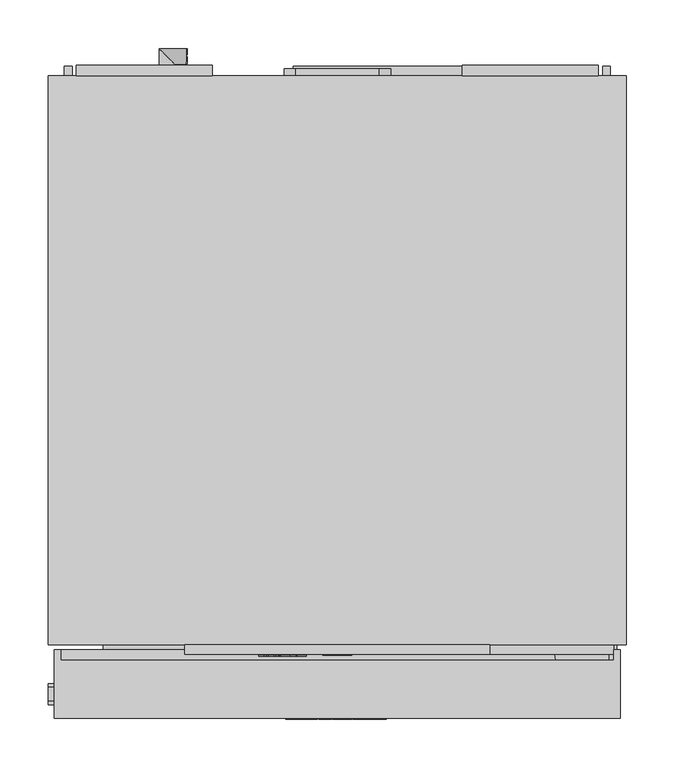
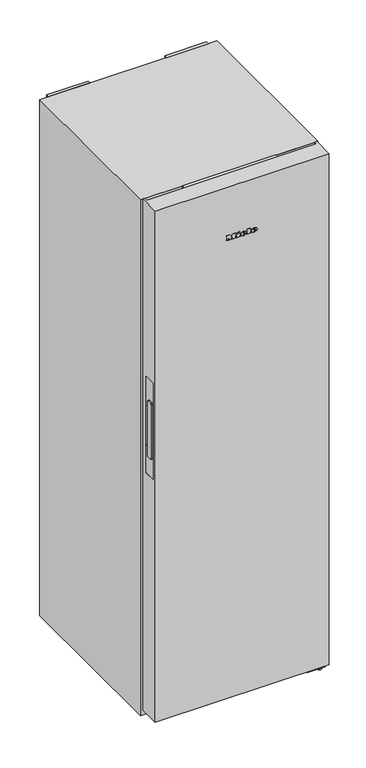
"""IFC4 building model written with IfcOpenShell, lengths in millimetres: proxy geometry, 11953910_EU1_FN4874C_WS : 37487434_EU1_11953910_FN4874C_WS."""

from ifc_helpers import new_model, si_unit, point, frame, frame_2d, origin, origin_with_axes, place, context, project, spatial, polyline, circle_curve, ellipse_curve, trimmed, segment, composite_curve, outline, extrude, faceted_brep, source, transform, mapped, element, save
from ifc_brep_helpers import plane_surface, cylinder_surface, revolved_surface, extruded_surface, advanced_brep


def specialty_equipment_1393cf11(model_context):
    return source(origin(), model_context, "Body", "SolidModel", [
        extrude(outline(polyline([(15.0, -609.5), (-15.0, -609.5), (-15.0, -606.5), (15.0, -606.5), (15.0, -609.5)])), frame((0.0, 0.0, 1812.0), z_axis=(0.0, 0.0, 1.0), x_axis=(1.0, 0.0, 0.0)), (0.0, 0.0, 1.0), 28.0),
        extrude(outline(polyline([(1845.5, 105.0), (1845.5, -105.0), (1806.5, -105.0), (1806.5, 105.0), (1845.5, 105.0)]), holes=[polyline([(1840.0, -15.0), (1840.0, 15.0), (1812.0, 15.0), (1812.0, -15.0), (1840.0, -15.0)])]), frame((0.0, -608.5, 0.0), z_axis=(0.0, 1.0, 0.0), x_axis=(0.0, 0.0, 1.0)), (0.0, 0.0, 1.0), 2.0),
        faceted_brep([(157.5, -598.5, 1802.0), (157.5, -608.5, 1802.0), (-157.5, -608.5, 1802.0), (-157.5, -598.5, 1802.0), (157.5, -598.5, 1850.0), (-157.5, -598.5, 1850.0), (-157.5, -608.5, 1850.0), (157.5, -608.5, 1850.0), (-105.0, -608.5, 1845.5), (105.0, -608.5, 1845.5), (105.0, -608.5, 1806.5), (-105.0, -608.5, 1806.5), (105.0, -606.5, 1845.5), (-105.0, -606.5, 1845.5), (-105.0, -606.5, 1806.5), (105.0, -606.5, 1806.5)], [[[0, 1, 2, 3]], [[4, 5, 6, 7]], [[0, 3, 5, 4]], [[3, 2, 6, 5]], [[2, 1, 7, 6], [8, 9, 10, 11]], [[1, 0, 4, 7]], [[12, 13, 14, 15]], [[13, 12, 9, 8]], [[14, 13, 8, 11]], [[15, 14, 11, 10]], [[12, 15, 10, 9]]]),
        advanced_brep(
        [(39.0804776, -675.5, 1668.7956125), (39.0804776, -675.5, 1670.5126125), (50.4534776, -675.5, 1670.5126125), (30.6654776, -675.5, 1670.5126125), (35.3404776, -675.5, 1664.7666125), (50.1644776, -675.5, 1668.7956125), (45.0304776, -675.5, 1668.7956125), (40.9844776, -675.5, 1666.8916125), (39.0804776, -675.5, 1672.6886125), (39.0804776, -675.5, 1674.5416125), (41.9874776, -675.5, 1674.5416125), (41.9874776, -675.5, 1672.6886125), (39.0804776, -674.5, 1668.7956125), (40.9844776, -674.5, 1666.8916125), (45.0304776, -674.5, 1668.7956125), (50.1644776, -674.5, 1668.7956125), (35.3404776, -674.5, 1664.7666125), (30.6654776, -674.5, 1670.5126125), (50.4534776, -674.5, 1670.5126125), (39.0804776, -674.5, 1670.5126125), (39.0804776, -674.5, 1672.6886125), (41.9874776, -674.5, 1672.6886125), (41.9874776, -674.5, 1674.5416125), (39.0804776, -674.5, 1674.5416125)],
        [
            (0, 1),
            (1, 2),
            (2, 3, ellipse_curve(frame((40.5594776, -675.5, 1670.5126125), z_axis=(0.0, -1.0, 0.0), x_axis=(-1.0, 0.0, 0.0)), 9.894, 8.177)),
            (3, 4, circle_curve(frame((37.2445704, -675.5, 1671.0906125), z_axis=(0.0, -1.0, 0.0), x_axis=(0.0, 0.0, -1.0)), 6.6044337)),
            (4, 5, circle_curve(frame((40.361414, -675.5, 1675.5786125), z_axis=(0.0, -1.0, 0.0), x_axis=(0.0, 0.0, -1.0)), 11.9209541)),
            (5, 6),
            (6, 7, circle_curve(frame((41.8154776, -675.5, 1670.3766125), z_axis=(0.0, 1.0, 0.0), x_axis=(0.0, 0.0, -1.0)), 3.5827065)),
            (7, 0, circle_curve(frame((40.9844776, -675.5, 1668.7956125), z_axis=(0.0, 1.0, 0.0), x_axis=(0.0, 0.0, -1.0)), 1.904)),
            (8, 9),
            (9, 10, circle_curve(frame((40.5339776, -675.5, 1674.5416125), z_axis=(0.0, 1.0, 0.0), x_axis=(0.0, 0.0, -1.0)), 1.4535)),
            (10, 11),
            (11, 8),
            (12, 13, circle_curve(frame((40.9844776, -674.5, 1668.7956125), z_axis=(0.0, -1.0, 0.0), x_axis=(0.0, 0.0, -1.0)), 1.904)),
            (13, 14, circle_curve(frame((41.8154776, -674.5, 1670.3766125), z_axis=(0.0, -1.0, 0.0), x_axis=(0.0, 0.0, -1.0)), 3.5827065)),
            (14, 15),
            (15, 16, circle_curve(frame((40.361414, -674.5, 1675.5786125), z_axis=(0.0, 1.0, 0.0), x_axis=(0.0, 0.0, -1.0)), 11.9209541)),
            (16, 17, circle_curve(frame((37.2445704, -674.5, 1671.0906125), z_axis=(0.0, 1.0, 0.0), x_axis=(0.0, 0.0, -1.0)), 6.6044337)),
            (17, 18, ellipse_curve(frame((40.5594776, -674.5, 1670.5126125), z_axis=(0.0, 1.0, 0.0), x_axis=(-1.0, 0.0, 0.0)), 9.894, 8.177)),
            (18, 19),
            (19, 12),
            (20, 21),
            (21, 22),
            (22, 23, circle_curve(frame((40.5339776, -674.5, 1674.5416125), z_axis=(0.0, -1.0, 0.0), x_axis=(0.0, 0.0, -1.0)), 1.4535)),
            (23, 20),
            (0, 12),
            (19, 1),
            (18, 2),
            (5, 15),
            (14, 6),
            (17, 3),
            (13, 7),
            (16, 4),
            (8, 20),
            (23, 9),
            (22, 10),
            (21, 11),
        ],
        [
            plane_surface(frame((39.0804776, -675.5, 1670.5126125), z_axis=(0.0, -1.0, 0.0), x_axis=(0.0, 0.0, 1.0))),
            plane_surface(frame((39.0804776, -674.5, 1670.5126125), z_axis=(0.0, 1.0, 0.0), x_axis=(0.0, 0.0, -1.0))),
            plane_surface(frame((39.0804776, -675.5, 1668.7956125), z_axis=(1.0, 0.0, 0.0), x_axis=(0.0, 1.0, 0.0))),
            plane_surface(frame((39.0804776, -675.5, 1670.5126125), z_axis=(0.0, 0.0, -1.0), x_axis=(0.0, 1.0, 0.0))),
            plane_surface(frame((50.1644776, -675.5, 1668.7956125), z_axis=(0.0, 0.0, 1.0), x_axis=(0.0, 1.0, 0.0))),
            extruded_surface(trimmed(ellipse_curve(frame((40.5594776, -673.5, 1670.5126125), z_axis=(0.0, -1.0, 0.0), x_axis=(-1.0, 0.0, 0.0)), 9.894, 8.177), [point((50.4534776, -673.5, 1670.5126125))], [point((30.6654776, -673.5, 1670.5126125))], True, "CARTESIAN"), (0.0, -1.0, 0.0), 1.0),
            revolved_surface(polyline([(41.8154776, -674.5, 1666.7939059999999), (41.8154776, -675.5, 1666.7939059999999)]), (41.8154776, -674.5, 1670.3766125), (0.0, 1.0, 0.0)),
            revolved_surface(polyline([(40.9844776, -674.5, 1666.8916125), (40.9844776, -675.5, 1666.8916125)]), (40.9844776, -674.5, 1668.7956125), (0.0, 1.0, 0.0)),
            cylinder_surface(frame((37.2445704, -674.5, 1671.0906125), z_axis=(0.0, -1.0, 0.0), x_axis=(0.0, 0.0, -1.0)), 6.6044337),
            cylinder_surface(frame((40.361414, -674.5, 1675.5786125), z_axis=(0.0, -1.0, 0.0), x_axis=(0.0, 0.0, -1.0)), 11.9209541),
            plane_surface(frame((39.0804776, -675.5, 1672.6886125), z_axis=(1.0, 0.0, 0.0), x_axis=(0.0, 1.0, 0.0))),
            revolved_surface(polyline([(40.5339776, -674.5, 1673.0881124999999), (40.5339776, -675.5, 1673.0881124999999)]), (40.5339776, -674.5, 1674.5416125), (0.0, 1.0, 0.0)),
            plane_surface(frame((41.9874776, -675.5, 1674.5416125), z_axis=(-1.0, 0.0, 0.0), x_axis=(0.0, 1.0, 0.0))),
            plane_surface(frame((41.9874776, -675.5, 1672.6886125), z_axis=(0.0, 0.0, 1.0), x_axis=(0.0, 1.0, 0.0))),
        ],
        [
            (0, [[1, 2, 3, 4, 5, 6, 7, 8], [9, 10, 11, 12]]),
            (1, [[13, 14, 15, 16, 17, 18, 19, 20], [21, 22, 23, 24]]),
            (2, [[-1, 25, -20, 26]]),
            (3, [[-2, -26, -19, 27]]),
            (4, [[-6, 28, -15, 29]]),
            (5, [[-3, -27, -18, 30]]),
            (6, [[-7, -29, -14, 31]]),
            (7, [[-8, -31, -13, -25]]),
            (8, [[-4, -30, -17, 32]]),
            (9, [[-5, -32, -16, -28]]),
            (10, [[-9, 33, -24, 34]]),
            (11, [[-10, -34, -23, 35]]),
            (12, [[-11, -35, -22, 36]]),
            (13, [[-12, -36, -21, -33]]),
        ],
    ),
        advanced_brep(
        [(3.6014776, -675.5, 1668.7956125), (3.6014776, -675.5, 1670.5126125), (14.9744776, -675.5, 1670.5126125), (-4.8135224, -675.5, 1670.5126125), (-0.1385224, -675.5, 1664.7666125), (14.6854776, -675.5, 1668.7956125), (9.5514776, -675.5, 1668.7956125), (5.5054776, -675.5, 1666.8916125), (3.6014776, -675.5, 1672.6886125), (3.6014776, -675.5, 1674.5416125), (6.5084776, -675.5, 1674.5416125), (6.5084776, -675.5, 1672.6886125), (3.6014776, -674.5, 1668.7956125), (5.5054776, -674.5, 1666.8916125), (9.5514776, -674.5, 1668.7956125), (14.6854776, -674.5, 1668.7956125), (-0.1385224, -674.5, 1664.7666125), (-4.8135224, -674.5, 1670.5126125), (14.9744776, -674.5, 1670.5126125), (3.6014776, -674.5, 1670.5126125), (3.6014776, -674.5, 1672.6886125), (6.5084776, -674.5, 1672.6886125), (6.5084776, -674.5, 1674.5416125), (3.6014776, -674.5, 1674.5416125)],
        [
            (0, 1),
            (1, 2),
            (2, 3, ellipse_curve(frame((5.0804776, -675.5, 1670.5126125), z_axis=(0.0, -1.0, 0.0), x_axis=(-1.0, 0.0, 0.0)), 9.894, 8.177)),
            (3, 4, circle_curve(frame((1.7655704, -675.5, 1671.0906125), z_axis=(0.0, -1.0, 0.0), x_axis=(0.0, 0.0, -1.0)), 6.6044337)),
            (4, 5, circle_curve(frame((4.882414, -675.5, 1675.5786125), z_axis=(0.0, -1.0, 0.0), x_axis=(0.0, 0.0, -1.0)), 11.9209541)),
            (5, 6),
            (6, 7, circle_curve(frame((6.3364776, -675.5, 1670.3766125), z_axis=(0.0, 1.0, 0.0), x_axis=(0.0, 0.0, -1.0)), 3.5827065)),
            (7, 0, circle_curve(frame((5.5054776, -675.5, 1668.7956125), z_axis=(0.0, 1.0, 0.0), x_axis=(0.0, 0.0, -1.0)), 1.904)),
            (8, 9),
            (9, 10, circle_curve(frame((5.0549776, -675.5, 1674.5416125), z_axis=(0.0, 1.0, 0.0), x_axis=(0.0, 0.0, -1.0)), 1.4535)),
            (10, 11),
            (11, 8),
            (12, 13, circle_curve(frame((5.5054776, -674.5, 1668.7956125), z_axis=(0.0, -1.0, 0.0), x_axis=(0.0, 0.0, -1.0)), 1.904)),
            (13, 14, circle_curve(frame((6.3364776, -674.5, 1670.3766125), z_axis=(0.0, -1.0, 0.0), x_axis=(0.0, 0.0, -1.0)), 3.5827065)),
            (14, 15),
            (15, 16, circle_curve(frame((4.882414, -674.5, 1675.5786125), z_axis=(0.0, 1.0, 0.0), x_axis=(0.0, 0.0, -1.0)), 11.9209541)),
            (16, 17, circle_curve(frame((1.7655704, -674.5, 1671.0906125), z_axis=(0.0, 1.0, 0.0), x_axis=(0.0, 0.0, -1.0)), 6.6044337)),
            (17, 18, ellipse_curve(frame((5.0804776, -674.5, 1670.5126125), z_axis=(0.0, 1.0, 0.0), x_axis=(-1.0, 0.0, 0.0)), 9.894, 8.177)),
            (18, 19),
            (19, 12),
            (20, 21),
            (21, 22),
            (22, 23, circle_curve(frame((5.0549776, -674.5, 1674.5416125), z_axis=(0.0, -1.0, 0.0), x_axis=(0.0, 0.0, -1.0)), 1.4535)),
            (23, 20),
            (0, 12),
            (19, 1),
            (18, 2),
            (5, 15),
            (14, 6),
            (17, 3),
            (13, 7),
            (16, 4),
            (8, 20),
            (23, 9),
            (22, 10),
            (21, 11),
        ],
        [
            plane_surface(frame((3.6014776, -675.5, 1670.5126125), z_axis=(0.0, -1.0, 0.0), x_axis=(0.0, 0.0, 1.0))),
            plane_surface(frame((3.6014776, -674.5, 1670.5126125), z_axis=(0.0, 1.0, 0.0), x_axis=(0.0, 0.0, -1.0))),
            plane_surface(frame((3.6014776, -675.5, 1668.7956125), z_axis=(1.0, 0.0, 0.0), x_axis=(0.0, 1.0, 0.0))),
            plane_surface(frame((3.6014776, -675.5, 1670.5126125), z_axis=(0.0, 0.0, -1.0), x_axis=(0.0, 1.0, 0.0))),
            plane_surface(frame((14.6854776, -675.5, 1668.7956125), z_axis=(0.0, 0.0, 1.0), x_axis=(0.0, 1.0, 0.0))),
            extruded_surface(trimmed(ellipse_curve(frame((5.0804776, -673.5, 1670.5126125), z_axis=(0.0, -1.0, 0.0), x_axis=(-1.0, 0.0, 0.0)), 9.894, 8.177), [point((14.9744776, -673.5, 1670.5126125))], [point((-4.8135224, -673.5, 1670.5126125))], True, "CARTESIAN"), (0.0, -1.0, 0.0), 1.0),
            revolved_surface(polyline([(6.3364776, -674.5, 1666.7939059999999), (6.3364776, -675.5, 1666.7939059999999)]), (6.3364776, -674.5, 1670.3766125), (0.0, 1.0, 0.0)),
            revolved_surface(polyline([(5.5054776, -674.5, 1666.8916125), (5.5054776, -675.5, 1666.8916125)]), (5.5054776, -674.5, 1668.7956125), (0.0, 1.0, 0.0)),
            cylinder_surface(frame((1.7655704, -674.5, 1671.0906125), z_axis=(0.0, -1.0, 0.0), x_axis=(0.0, 0.0, -1.0)), 6.6044337),
            cylinder_surface(frame((4.882414, -674.5, 1675.5786125), z_axis=(0.0, -1.0, 0.0), x_axis=(0.0, 0.0, -1.0)), 11.9209541),
            plane_surface(frame((3.6014776, -675.5, 1672.6886125), z_axis=(1.0, 0.0, 0.0), x_axis=(0.0, 1.0, 0.0))),
            revolved_surface(polyline([(5.0549776, -674.5, 1673.0881124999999), (5.0549776, -675.5, 1673.0881124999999)]), (5.0549776, -674.5, 1674.5416125), (0.0, 1.0, 0.0)),
            plane_surface(frame((6.5084776, -675.5, 1674.5416125), z_axis=(-1.0, 0.0, 0.0), x_axis=(0.0, 1.0, 0.0))),
            plane_surface(frame((6.5084776, -675.5, 1672.6886125), z_axis=(0.0, 0.0, 1.0), x_axis=(0.0, 1.0, 0.0))),
        ],
        [
            (0, [[1, 2, 3, 4, 5, 6, 7, 8], [9, 10, 11, 12]]),
            (1, [[13, 14, 15, 16, 17, 18, 19, 20], [21, 22, 23, 24]]),
            (2, [[-1, 25, -20, 26]]),
            (3, [[-2, -26, -19, 27]]),
            (4, [[-6, 28, -15, 29]]),
            (5, [[-3, -27, -18, 30]]),
            (6, [[-7, -29, -14, 31]]),
            (7, [[-8, -31, -13, -25]]),
            (8, [[-4, -30, -17, 32]]),
            (9, [[-5, -32, -16, -28]]),
            (10, [[-9, 33, -24, 34]]),
            (11, [[-10, -34, -23, 35]]),
            (12, [[-11, -35, -22, 36]]),
            (13, [[-12, -36, -21, -33]]),
        ],
    ),
        extrude(outline(polyline([(1680.7636125, -14.9795224), (1678.0096125, -13.6875224), (1680.6956125, -7.9245224), (1683.4496125, -9.1995224), (1680.7636125, -14.9795224)])), frame((0.0, -675.5, 0.0), z_axis=(0.0, 1.0, 0.0), x_axis=(0.0, 0.0, 1.0)), (0.0, 0.0, 1.0), 1.0),
        extrude(outline(polyline([(1677.6356125, -19.1785224), (1674.5926125, -19.1785224), (1674.5926125, -17.1555224), (1667.6226125, -17.1555224), (1667.6226125, -19.1785224), (1664.7666125, -19.1785224), (1664.7666125, -5.7655224), (1667.6226125, -5.7655224), (1667.6226125, -7.7375224), (1677.6356125, -7.7375224), (1677.6356125, -19.1785224)])), frame((0.0, -675.5, 0.0), z_axis=(0.0, 1.0, 0.0), x_axis=(0.0, 0.0, 1.0)), (0.0, 0.0, 1.0), 1.0),
        extrude(outline(polyline([(1678.9956125, 15.9264776), (1678.9956125, 17.9664776), (1667.6226125, 17.9664776), (1667.6226125, 15.9264776), (1664.7666125, 15.9264776), (1664.7666125, 29.7134776), (1667.6226125, 29.7134776), (1667.6226125, 27.6224776), (1681.7666125, 27.6224776), (1681.7666125, 15.9264776), (1678.9956125, 15.9264776)])), frame((0.0, -675.5, 0.0), z_axis=(0.0, 1.0, 0.0), x_axis=(0.0, 0.0, 1.0)), (0.0, 0.0, 1.0), 1.0),
        extrude(outline(polyline([(1678.9956125, -53.0595224), (1678.9956125, -51.0025224), (1667.6226125, -51.0025224), (1667.6226125, -53.0595224), (1664.7666125, -53.0595224), (1664.7666125, -45.5795224), (1667.6226125, -45.5795224), (1667.6226125, -47.6195224), (1674.7967372, -47.6195224), (1664.7666125, -40.0205224), (1675.2068348, -32.3875224), (1667.6226125, -32.3875224), (1667.6226125, -34.4785224), (1664.7666125, -34.4785224), (1664.7666125, -20.9125224), (1667.6226125, -20.9125224), (1667.6226125, -23.0715224), (1678.9956125, -23.0715224), (1678.9956125, -20.9125224), (1681.7666125, -20.9125224), (1681.7666125, -31.2655224), (1675.3916125, -36.2295224), (1681.7666125, -41.2105224), (1681.7666125, -53.0595224), (1678.9956125, -53.0595224)])), frame((0.0, -675.5, 0.0), z_axis=(0.0, 1.0, 0.0), x_axis=(0.0, 0.0, 1.0)), (0.0, 0.0, 1.0), 1.0),
        advanced_brep(
        [(-37.64, -610.5, 1828.896), (-37.64, -610.5, 1829.704), (-32.288, -610.5, 1829.704), (-41.6, -610.5, 1829.704), (-39.4, -610.5, 1827.0), (-32.424, -610.5, 1828.896), (-34.84, -610.5, 1828.896), (-36.744, -610.5, 1828.0), (-37.64, -610.5, 1830.728), (-37.64, -610.5, 1831.6), (-36.272, -610.5, 1831.6), (-36.272, -610.5, 1830.728), (-37.64, -609.5, 1828.896), (-36.744, -609.5, 1828.0), (-34.84, -609.5, 1828.896), (-32.424, -609.5, 1828.896), (-39.4, -609.5, 1827.0), (-41.6, -609.5, 1829.704), (-32.288, -609.5, 1829.704), (-37.64, -609.5, 1829.704), (-37.64, -609.5, 1830.728), (-36.272, -609.5, 1830.728), (-36.272, -609.5, 1831.6), (-37.64, -609.5, 1831.6)],
        [
            (0, 1),
            (1, 2),
            (2, 3, ellipse_curve(frame((-36.944, -610.5, 1829.704), z_axis=(0.0, -1.0, 0.0), x_axis=(-1.0, 0.0, 0.0)), 4.656, 3.848)),
            (3, 4, circle_curve(frame((-38.5039564, -610.5, 1829.976), z_axis=(0.0, -1.0, 0.0), x_axis=(0.0, 0.0, -1.0)), 3.1079688)),
            (4, 5, circle_curve(frame((-37.0372064, -610.5, 1832.088), z_axis=(0.0, -1.0, 0.0), x_axis=(0.0, 0.0, -1.0)), 5.6098607)),
            (5, 6),
            (6, 7, circle_curve(frame((-36.3529412, -610.5, 1829.64), z_axis=(0.0, 1.0, 0.0), x_axis=(0.0, 0.0, -1.0)), 1.6859795)),
            (7, 0, circle_curve(frame((-36.744, -610.5, 1828.896), z_axis=(0.0, 1.0, 0.0), x_axis=(0.0, 0.0, -1.0)), 0.896)),
            (8, 9),
            (9, 10, circle_curve(frame((-36.956, -610.5, 1831.6), z_axis=(0.0, 1.0, 0.0), x_axis=(0.0, 0.0, -1.0)), 0.684)),
            (10, 11),
            (11, 8),
            (12, 13, circle_curve(frame((-36.744, -609.5, 1828.896), z_axis=(0.0, -1.0, 0.0), x_axis=(0.0, 0.0, -1.0)), 0.896)),
            (13, 14, circle_curve(frame((-36.3529412, -609.5, 1829.64), z_axis=(0.0, -1.0, 0.0), x_axis=(0.0, 0.0, -1.0)), 1.6859795)),
            (14, 15),
            (15, 16, circle_curve(frame((-37.0372064, -609.5, 1832.088), z_axis=(0.0, 1.0, 0.0), x_axis=(0.0, 0.0, -1.0)), 5.6098607)),
            (16, 17, circle_curve(frame((-38.5039564, -609.5, 1829.976), z_axis=(0.0, 1.0, 0.0), x_axis=(0.0, 0.0, -1.0)), 3.1079688)),
            (17, 18, ellipse_curve(frame((-36.944, -609.5, 1829.704), z_axis=(0.0, 1.0, 0.0), x_axis=(-1.0, 0.0, 0.0)), 4.656, 3.848)),
            (18, 19),
            (19, 12),
            (20, 21),
            (21, 22),
            (22, 23, circle_curve(frame((-36.956, -609.5, 1831.6), z_axis=(0.0, -1.0, 0.0), x_axis=(0.0, 0.0, -1.0)), 0.684)),
            (23, 20),
            (0, 12),
            (19, 1),
            (18, 2),
            (5, 15),
            (14, 6),
            (17, 3),
            (13, 7),
            (16, 4),
            (8, 20),
            (23, 9),
            (22, 10),
            (21, 11),
        ],
        [
            plane_surface(frame((-37.64, -610.5, 1829.704), z_axis=(0.0, -1.0, 0.0), x_axis=(0.0, 0.0, 1.0))),
            plane_surface(frame((-37.64, -609.5, 1829.704), z_axis=(0.0, 1.0, 0.0), x_axis=(0.0, 0.0, -1.0))),
            plane_surface(frame((-37.64, -610.5, 1828.896), z_axis=(1.0, 0.0, 0.0), x_axis=(0.0, 1.0, 0.0))),
            plane_surface(frame((-37.64, -610.5, 1829.704), z_axis=(0.0, 0.0, -1.0), x_axis=(0.0, 1.0, 0.0))),
            plane_surface(frame((-32.424, -610.5, 1828.896), z_axis=(0.0, 0.0, 1.0), x_axis=(0.0, 1.0, 0.0))),
            extruded_surface(trimmed(ellipse_curve(frame((-36.944, -608.5, 1829.704), z_axis=(0.0, -1.0, 0.0), x_axis=(-1.0, 0.0, 0.0)), 4.656, 3.848), [point((-32.288, -608.5, 1829.704))], [point((-41.6, -608.5, 1829.704))], True, "CARTESIAN"), (0.0, -1.0, 0.0), 1.0),
            revolved_surface(polyline([(-36.3529412, -609.5, 1827.9540205), (-36.3529412, -610.5, 1827.9540205)]), (-36.3529412, -609.5, 1829.64), (0.0, 1.0, 0.0)),
            revolved_surface(polyline([(-36.744, -609.5, 1828.0), (-36.744, -610.5, 1828.0)]), (-36.744, -609.5, 1828.896), (0.0, 1.0, 0.0)),
            cylinder_surface(frame((-38.5039564, -609.5, 1829.976), z_axis=(0.0, -1.0, 0.0), x_axis=(0.0, 0.0, -1.0)), 3.1079688),
            cylinder_surface(frame((-37.0372064, -609.5, 1832.088), z_axis=(0.0, -1.0, 0.0), x_axis=(0.0, 0.0, -1.0)), 5.6098607),
            plane_surface(frame((-37.64, -610.5, 1830.728), z_axis=(1.0, 0.0, 0.0), x_axis=(0.0, 1.0, 0.0))),
            revolved_surface(polyline([(-36.956, -609.5, 1830.916), (-36.956, -610.5, 1830.916)]), (-36.956, -609.5, 1831.6), (0.0, 1.0, 0.0)),
            plane_surface(frame((-36.272, -610.5, 1831.6), z_axis=(-1.0, 0.0, 0.0), x_axis=(0.0, 1.0, 0.0))),
            plane_surface(frame((-36.272, -610.5, 1830.728), z_axis=(0.0, 0.0, 1.0), x_axis=(0.0, 1.0, 0.0))),
        ],
        [
            (0, [[1, 2, 3, 4, 5, 6, 7, 8], [9, 10, 11, 12]]),
            (1, [[13, 14, 15, 16, 17, 18, 19, 20], [21, 22, 23, 24]]),
            (2, [[-1, 25, -20, 26]]),
            (3, [[-2, -26, -19, 27]]),
            (4, [[-6, 28, -15, 29]]),
            (5, [[-3, -27, -18, 30]]),
            (6, [[-7, -29, -14, 31]]),
            (7, [[-8, -31, -13, -25]]),
            (8, [[-4, -30, -17, 32]]),
            (9, [[-5, -32, -16, -28]]),
            (10, [[-9, 33, -24, 34]]),
            (11, [[-10, -34, -23, 35]]),
            (12, [[-11, -35, -22, 36]]),
            (13, [[-12, -36, -21, -33]]),
        ],
    ),
        advanced_brep(
        [(-54.336, -610.5, 1828.896), (-54.336, -610.5, 1829.704), (-48.984, -610.5, 1829.704), (-58.296, -610.5, 1829.704), (-56.096, -610.5, 1827.0), (-49.12, -610.5, 1828.896), (-51.536, -610.5, 1828.896), (-53.44, -610.5, 1828.0), (-54.336, -610.5, 1830.728), (-54.336, -610.5, 1831.6), (-52.968, -610.5, 1831.6), (-52.968, -610.5, 1830.728), (-54.336, -609.5, 1828.896), (-53.44, -609.5, 1828.0), (-51.536, -609.5, 1828.896), (-49.12, -609.5, 1828.896), (-56.096, -609.5, 1827.0), (-58.296, -609.5, 1829.704), (-48.984, -609.5, 1829.704), (-54.336, -609.5, 1829.704), (-54.336, -609.5, 1830.728), (-52.968, -609.5, 1830.728), (-52.968, -609.5, 1831.6), (-54.336, -609.5, 1831.6)],
        [
            (0, 1),
            (1, 2),
            (2, 3, ellipse_curve(frame((-53.64, -610.5, 1829.704), z_axis=(0.0, -1.0, 0.0), x_axis=(-1.0, 0.0, 0.0)), 4.656, 3.848)),
            (3, 4, circle_curve(frame((-55.1999564, -610.5, 1829.976), z_axis=(0.0, -1.0, 0.0), x_axis=(0.0, 0.0, -1.0)), 3.1079688)),
            (4, 5, circle_curve(frame((-53.7332064, -610.5, 1832.088), z_axis=(0.0, -1.0, 0.0), x_axis=(0.0, 0.0, -1.0)), 5.6098607)),
            (5, 6),
            (6, 7, circle_curve(frame((-53.0489412, -610.5, 1829.64), z_axis=(0.0, 1.0, 0.0), x_axis=(0.0, 0.0, -1.0)), 1.6859795)),
            (7, 0, circle_curve(frame((-53.44, -610.5, 1828.896), z_axis=(0.0, 1.0, 0.0), x_axis=(0.0, 0.0, -1.0)), 0.896)),
            (8, 9),
            (9, 10, circle_curve(frame((-53.652, -610.5, 1831.6), z_axis=(0.0, 1.0, 0.0), x_axis=(0.0, 0.0, -1.0)), 0.684)),
            (10, 11),
            (11, 8),
            (12, 13, circle_curve(frame((-53.44, -609.5, 1828.896), z_axis=(0.0, -1.0, 0.0), x_axis=(0.0, 0.0, -1.0)), 0.896)),
            (13, 14, circle_curve(frame((-53.0489412, -609.5, 1829.64), z_axis=(0.0, -1.0, 0.0), x_axis=(0.0, 0.0, -1.0)), 1.6859795)),
            (14, 15),
            (15, 16, circle_curve(frame((-53.7332064, -609.5, 1832.088), z_axis=(0.0, 1.0, 0.0), x_axis=(0.0, 0.0, -1.0)), 5.6098607)),
            (16, 17, circle_curve(frame((-55.1999564, -609.5, 1829.976), z_axis=(0.0, 1.0, 0.0), x_axis=(0.0, 0.0, -1.0)), 3.1079688)),
            (17, 18, ellipse_curve(frame((-53.64, -609.5, 1829.704), z_axis=(0.0, 1.0, 0.0), x_axis=(-1.0, 0.0, 0.0)), 4.656, 3.848)),
            (18, 19),
            (19, 12),
            (20, 21),
            (21, 22),
            (22, 23, circle_curve(frame((-53.652, -609.5, 1831.6), z_axis=(0.0, -1.0, 0.0), x_axis=(0.0, 0.0, -1.0)), 0.684)),
            (23, 20),
            (0, 12),
            (19, 1),
            (18, 2),
            (5, 15),
            (14, 6),
            (17, 3),
            (13, 7),
            (16, 4),
            (8, 20),
            (23, 9),
            (22, 10),
            (21, 11),
        ],
        [
            plane_surface(frame((-54.336, -610.5, 1829.704), z_axis=(0.0, -1.0, 0.0), x_axis=(0.0, 0.0, 1.0))),
            plane_surface(frame((-54.336, -609.5, 1829.704), z_axis=(0.0, 1.0, 0.0), x_axis=(0.0, 0.0, -1.0))),
            plane_surface(frame((-54.336, -610.5, 1828.896), z_axis=(1.0, 0.0, 0.0), x_axis=(0.0, 1.0, 0.0))),
            plane_surface(frame((-54.336, -610.5, 1829.704), z_axis=(0.0, 0.0, -1.0), x_axis=(0.0, 1.0, 0.0))),
            plane_surface(frame((-49.12, -610.5, 1828.896), z_axis=(0.0, 0.0, 1.0), x_axis=(0.0, 1.0, 0.0))),
            extruded_surface(trimmed(ellipse_curve(frame((-53.64, -608.5, 1829.704), z_axis=(0.0, -1.0, 0.0), x_axis=(-1.0, 0.0, 0.0)), 4.656, 3.848), [point((-48.984, -608.5, 1829.704))], [point((-58.296, -608.5, 1829.704))], True, "CARTESIAN"), (0.0, -1.0, 0.0), 1.0),
            revolved_surface(polyline([(-53.0489412, -609.5, 1827.9540205), (-53.0489412, -610.5, 1827.9540205)]), (-53.0489412, -609.5, 1829.64), (0.0, 1.0, 0.0)),
            revolved_surface(polyline([(-53.44, -609.5, 1828.0), (-53.44, -610.5, 1828.0)]), (-53.44, -609.5, 1828.896), (0.0, 1.0, 0.0)),
            cylinder_surface(frame((-55.1999564, -609.5, 1829.976), z_axis=(0.0, -1.0, 0.0), x_axis=(0.0, 0.0, -1.0)), 3.1079688),
            cylinder_surface(frame((-53.7332064, -609.5, 1832.088), z_axis=(0.0, -1.0, 0.0), x_axis=(0.0, 0.0, -1.0)), 5.6098607),
            plane_surface(frame((-54.336, -610.5, 1830.728), z_axis=(1.0, 0.0, 0.0), x_axis=(0.0, 1.0, 0.0))),
            revolved_surface(polyline([(-53.652, -609.5, 1830.916), (-53.652, -610.5, 1830.916)]), (-53.652, -609.5, 1831.6), (0.0, 1.0, 0.0)),
            plane_surface(frame((-52.968, -610.5, 1831.6), z_axis=(-1.0, 0.0, 0.0), x_axis=(0.0, 1.0, 0.0))),
            plane_surface(frame((-52.968, -610.5, 1830.728), z_axis=(0.0, 0.0, 1.0), x_axis=(0.0, 1.0, 0.0))),
        ],
        [
            (0, [[1, 2, 3, 4, 5, 6, 7, 8], [9, 10, 11, 12]]),
            (1, [[13, 14, 15, 16, 17, 18, 19, 20], [21, 22, 23, 24]]),
            (2, [[-1, 25, -20, 26]]),
            (3, [[-2, -26, -19, 27]]),
            (4, [[-6, 28, -15, 29]]),
            (5, [[-3, -27, -18, 30]]),
            (6, [[-7, -29, -14, 31]]),
            (7, [[-8, -31, -13, -25]]),
            (8, [[-4, -30, -17, 32]]),
            (9, [[-5, -32, -16, -28]]),
            (10, [[-9, 33, -24, 34]]),
            (11, [[-10, -34, -23, 35]]),
            (12, [[-11, -35, -22, 36]]),
            (13, [[-12, -36, -21, -33]]),
        ],
    ),
        extrude(outline(polyline([(1834.528, -63.08), (1833.232, -62.472), (1834.496, -59.76), (1835.792, -60.36), (1834.528, -63.08)])), frame((0.0, -610.5, 0.0), z_axis=(0.0, 1.0, 0.0), x_axis=(0.0, 0.0, 1.0)), (0.0, 0.0, 1.0), 1.0),
        extrude(outline(polyline([(1833.056, -65.056), (1831.624, -65.056), (1831.624, -64.104), (1828.344, -64.104), (1828.344, -65.056), (1827.0, -65.056), (1827.0, -58.744), (1828.344, -58.744), (1828.344, -59.672), (1833.056, -59.672), (1833.056, -65.056)])), frame((0.0, -610.5, 0.0), z_axis=(0.0, 1.0, 0.0), x_axis=(0.0, 0.0, 1.0)), (0.0, 0.0, 1.0), 1.0),
        extrude(outline(polyline([(1833.696, -48.536), (1833.696, -47.576), (1828.344, -47.576), (1828.344, -48.536), (1827.0, -48.536), (1827.0, -42.048), (1828.344, -42.048), (1828.344, -43.032), (1835.0, -43.032), (1835.0, -48.536), (1833.696, -48.536)])), frame((0.0, -610.5, 0.0), z_axis=(0.0, 1.0, 0.0), x_axis=(0.0, 0.0, 1.0)), (0.0, 0.0, 1.0), 1.0),
        extrude(outline(polyline([(1833.696, -81.0), (1833.696, -80.032), (1828.344, -80.032), (1828.344, -81.0), (1827.0, -81.0), (1827.0, -77.48), (1828.344, -77.48), (1828.344, -78.44), (1831.7471247, -78.44), (1827.0, -74.864), (1831.8152223, -71.272), (1828.344, -71.272), (1828.344, -72.256), (1827.0, -72.256), (1827.0, -65.872), (1828.344, -65.872), (1828.344, -66.888), (1833.696, -66.888), (1833.696, -65.872), (1835.0, -65.872), (1835.0, -70.744), (1832.0, -73.08), (1835.0, -75.424), (1835.0, -81.0), (1833.696, -81.0)])), frame((0.0, -610.5, 0.0), z_axis=(0.0, 1.0, 0.0), x_axis=(0.0, 0.0, 1.0)), (0.0, 0.0, 1.0), 1.0),
        extrude(outline(polyline([(-42.8527823, 0.0), (-48.1304417, 3.2708192), (-29.8908031, 3.2708192), (-34.9274229, 0.0), (-42.8527823, 0.0)])), frame((238.5469678, 0.0, 0.0), z_axis=(1.0, 0.0, 0.0), x_axis=(0.0, 1.0, 0.0)), (0.0, 0.0, 1.0), 15.1632647),
        extrude(outline(polyline([(-42.8527823, 0.0), (-48.1304417, 3.2708192), (-29.8908031, 3.2708192), (-34.9274229, 0.0), (-42.8527823, 0.0)])), frame((-253.7102325, 0.0, 0.0), z_axis=(1.0, 0.0, 0.0), x_axis=(0.0, 1.0, 0.0)), (0.0, 0.0, 1.0), 15.1632647),
        extrude(outline(polyline([(2.1227397, 65.0), (2.1227397, 75.045631), (9.343037, 75.045631), (9.343037, 73.7899271), (3.3784436, 73.7899271), (3.3784436, 70.8076304), (9.029111, 70.8076304), (9.029111, 69.5519266), (3.3784436, 69.5519266), (3.3784436, 66.2557039), (9.5, 66.2557039), (9.5, 65.0), (2.1227397, 65.0)])), frame((-156.0615355, 0.0, 0.0), z_axis=(1.0, 0.0, 0.0), x_axis=(0.0, 1.0, 0.0)), (0.0, 0.0, 1.0), 1.0),
        extrude(outline(polyline([(11.3835558, 65.0), (11.3835558, 75.045631), (12.6392597, 75.045631), (12.6392597, 66.2557039), (17.6620752, 66.2557039), (17.6620752, 65.0), (11.3835558, 65.0)])), frame((-156.0615355, 0.0, 0.0), z_axis=(1.0, 0.0, 0.0), x_axis=(0.0, 1.0, 0.0)), (0.0, 0.0, 1.0), 1.0),
        advanced_brep(
        [(-168.0615355, -10.5, 70.0), (-184.0615355, -10.5, 70.0), (-168.0615355, 1.5, 70.0), (-184.0615355, 17.5, 70.0), (-156.0615355, 1.5, 70.0), (-156.0615355, 17.5, 70.0)],
        [
            (0, 1, circle_curve(frame((-176.0615355, -10.5, 70.0), z_axis=(0.0, -1.0, 0.0), x_axis=(-1.0, 0.0, 0.0)), 8.0)),
            (1, 0, circle_curve(frame((-176.0615355, -10.5, 70.0), z_axis=(0.0, -1.0, 0.0), x_axis=(-1.0, 0.0, 0.0)), 8.0)),
            (0, 2),
            (2, 3, ellipse_curve(frame((-176.0615355, 9.5, 70.0), z_axis=(-0.7071067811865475, -0.7071067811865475, 0.0), x_axis=(0.7071067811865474, -0.7071067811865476, 0.0)), 11.3137085, 8.0)),
            (3, 1),
            (3, 2, ellipse_curve(frame((-176.0615355, 9.5, 70.0), z_axis=(-0.7071067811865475, -0.7071067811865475, 0.0), x_axis=(0.7071067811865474, -0.7071067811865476, 0.0)), 11.3137085, 8.0)),
            (4, 5, circle_curve(frame((-156.0615355, 9.5, 70.0), z_axis=(1.0, 0.0, 0.0), x_axis=(0.0, 1.0, 0.0)), 8.0)),
            (5, 4, circle_curve(frame((-156.0615355, 9.5, 70.0), z_axis=(1.0, 0.0, 0.0), x_axis=(0.0, 1.0, 0.0)), 8.0)),
            (2, 4),
            (5, 3),
        ],
        [
            plane_surface(frame((-176.0615355, -10.5, 0.0), z_axis=(0.0, -1.0, 0.0), x_axis=(0.0, 0.0, 1.0))),
            cylinder_surface(frame((-176.0615355, -10.5, 70.0), z_axis=(0.0, -1.0, 0.0), x_axis=(-1.0, 0.0, 0.0)), 8.0),
            plane_surface(frame((-156.0615355, 9.5, 0.0), z_axis=(1.0, 0.0, 0.0), x_axis=(0.0, 0.0, 1.0))),
            cylinder_surface(frame((-176.0615355, 9.5, 70.0), z_axis=(-1.0, 0.0, 0.0), x_axis=(0.0, 1.0, 0.0)), 8.0),
        ],
        [
            (0, [[1, 2]]),
            (1, [[-1, 3, 4, 5]]),
            (1, [[-2, -5, 6, -3]]),
            (2, [[7, 8]]),
            (3, [[-4, 9, -8, 10]]),
            (3, [[-6, -10, -7, -9]]),
        ],
    ),
        extrude(outline(polyline([(-118.9841834, 15.0), (-62.9841834, 15.0), (-75.5706779, 0.0), (-106.3976889, 0.0), (-118.9841834, 15.0)])), frame((-288.5, 0.0, 0.0), z_axis=(1.0, 0.0, 0.0), x_axis=(0.0, 1.0, 0.0)), (0.0, 0.0, 1.0), 16.0),
        extrude(outline(polyline([(-118.9841834, 15.0), (-62.9841834, 15.0), (-75.5706779, 0.0), (-106.3976889, 0.0), (-118.9841834, 15.0)])), frame((272.5, 0.0, 0.0), z_axis=(1.0, 0.0, 0.0), x_axis=(0.0, 1.0, 0.0)), (0.0, 0.0, 1.0), 16.0),
        extrude(outline(polyline([(281.8051758, -10.5), (274.2947998, -10.5), (274.2947998, -0.5), (281.8051758, -0.5), (281.8051758, -10.5)])), frame((0.0, 0.0, 239.4947815), z_axis=(0.0, 0.0, 1.0), x_axis=(1.0, 0.0, 0.0)), (0.0, 0.0, 1.0), 18.4103699),
        extrude(outline(polyline([(-274.0827332, -10.5), (-282.1051331, -10.5), (-282.1051331, -0.5), (-274.0827332, -0.5), (-274.0827332, -10.5)])), frame((0.0, 0.0, 239.4947815), z_axis=(0.0, 0.0, 1.0), x_axis=(1.0, 0.0, 0.0)), (0.0, 0.0, 1.0), 18.3224792),
        extrude(outline(polyline([(190.0, 177.5), (133.0, 177.5), (133.0, -45.5), (64.0, -45.5), (64.0, 258.5), (190.0, 258.5), (190.0, 177.5)])), frame((0.0, -10.5, 0.0), z_axis=(0.0, 1.0, 0.0), x_axis=(0.0, 0.0, 1.0)), (0.0, 0.0, 1.0), 10.0),
        extrude(outline(polyline([(269.5372046, -10.5), (129.0, -10.5), (129.0, 0.0), (269.5372046, 0.0), (269.5372046, -10.5)])), frame((0.0, 0.0, 1826.0), z_axis=(0.0, 0.0, 1.0), x_axis=(1.0, 0.0, 0.0)), (0.0, 0.0, 1.0), 24.0),
        extrude(outline(polyline([(-129.0, -10.5), (-269.5372046, -10.5), (-269.5372046, 0.0), (-129.0, 0.0), (-129.0, -10.5)])), frame((0.0, 0.0, 1826.0), z_axis=(0.0, 0.0, 1.0), x_axis=(1.0, 0.0, 0.0)), (0.0, 0.0, 1.0), 24.0),
        extrude(outline(polyline([(64.0, -159.5), (-64.0, -159.5), (-64.0, -71.5), (64.0, -71.5), (64.0, -159.5)])), frame((0.0, 0.0, 1636.0), z_axis=(0.0, 0.0, 1.0), x_axis=(1.0, 0.0, 0.0)), (0.0, 0.0, 1.0), 177.6535004),
        extrude(outline(polyline([(55.0, -521.5), (55.0, -575.5), (-55.0, -575.5), (-55.0, -521.5), (55.0, -521.5)])), frame((0.0, 0.0, 1759.0), z_axis=(0.0, 0.0, 1.0), x_axis=(1.0, 0.0, 0.0)), (0.0, 0.0, 1.0), 1.0),
        extrude(outline(composite_curve([segment(trimmed(circle_curve(frame_2d((-248.75, -584.5)), 10.0), [point((-258.75, -584.5))], [point((-238.75, -584.5))], False, "CARTESIAN"), True, "CONTINUOUS"), segment(trimmed(circle_curve(frame_2d((-248.75, -584.5)), 10.0), [point((-238.75, -584.5))], [point((-258.75, -584.5))], False, "CARTESIAN"), True, "CONTINUOUS")], self_intersect=False)), origin_with_axes(), (0.0, 0.0, 1.0), 15.0),
        extrude(outline(composite_curve([segment(trimmed(circle_curve(frame_2d((248.75, -584.4761218)), 10.0), [point((238.75, -584.4761218))], [point((258.75, -584.4761218))], False, "CARTESIAN"), True, "CONTINUOUS"), segment(trimmed(circle_curve(frame_2d((248.75, -584.4761218)), 10.0), [point((258.75, -584.4761218))], [point((238.75, -584.4761218))], False, "CARTESIAN"), True, "CONTINUOUS")], self_intersect=False)), origin_with_axes(), (0.0, 0.0, 1.0), 15.0),
        extrude(outline(polyline([(240.0, -290.5), (-240.0, -290.5), (-240.0, -71.5), (240.0, -71.5), (240.0, -290.5)])), frame((0.0, 0.0, 129.0), z_axis=(0.0, 0.0, 1.0), x_axis=(1.0, 0.0, 0.0)), (0.0, 0.0, 1.0), 190.0),
        extrude(outline(composite_curve([segment(trimmed(circle_curve(frame_2d((1162.0, -43.0)), 12.0), [point((1174.0, -43.0))], [point((1162.0, -55.0))], False, "CARTESIAN"), True, "CONTINUOUS"), segment(polyline([(1162.0, -55.0), (1138.0, -55.0)]), True, "CONTINUOUS"), segment(trimmed(circle_curve(frame_2d((1138.0, -43.0)), 12.0), [point((1138.0, -55.0))], [point((1126.0, -43.0))], False, "CARTESIAN"), True, "CONTINUOUS"), segment(polyline([(1126.0, -43.0), (1126.0, 43.0)]), True, "CONTINUOUS"), segment(trimmed(circle_curve(frame_2d((1138.0, 43.0)), 12.0), [point((1126.0, 43.0))], [point((1138.0, 55.0))], False, "CARTESIAN"), True, "CONTINUOUS"), segment(polyline([(1138.0, 55.0), (1162.0, 55.0)]), True, "CONTINUOUS"), segment(trimmed(circle_curve(frame_2d((1162.0, 43.0)), 12.0), [point((1162.0, 55.0))], [point((1174.0, 43.0))], False, "CARTESIAN"), True, "CONTINUOUS"), segment(polyline([(1174.0, 43.0), (1174.0, -43.0)]), True, "CONTINUOUS")], self_intersect=False)), frame((0.0, -10.5, 0.0), z_axis=(0.0, 1.0, 0.0), x_axis=(0.0, 0.0, 1.0)), (0.0, 0.0, 1.0), 7.0),
        extrude(outline(polyline([(272.5, -28.6436023), (272.5, -529.6387407), (-272.5, -529.6387407), (-272.5, -28.6436023), (272.5, -28.6436023)])), frame((0.0, 0.0, 3.2708192), z_axis=(0.0, 0.0, 1.0), x_axis=(1.0, 0.0, 0.0)), (0.0, 0.0, 1.0), 11.7291808),
        faceted_brep([(298.5, -10.5, 1850.0), (-298.5, -10.5, 1850.0), (-298.5, -598.5, 1850.0), (298.5, -598.5, 1850.0), (298.5, -10.5, 15.0), (298.5, -598.5, 15.0), (-298.5, -598.5, 15.0), (-298.5, -10.5, 15.0), (-240.0, -598.5, 1760.0), (240.0, -598.5, 1760.0), (240.0, -598.5, 129.0), (-240.0, -598.5, 129.0), (-240.0, -468.5, 1760.0), (240.0, -468.5, 1760.0), (240.0, -71.5, 129.0), (-240.0, -71.5, 129.0), (240.0, -71.5, 1813.6535004), (-240.0, -71.5, 1813.6535004), (-240.0, -468.5, 1813.6535004), (240.0, -468.5, 1813.6535004)], [[[0, 1, 2, 3]], [[4, 5, 6, 7]], [[1, 0, 4, 7]], [[2, 1, 7, 6]], [[3, 2, 6, 5], [8, 9, 10, 11]], [[0, 3, 5, 4]], [[9, 8, 12, 13]], [[14, 15, 11, 10]], [[15, 14, 16, 17]], [[15, 17, 18, 12, 8, 11]], [[16, 14, 10, 9, 13, 19]], [[19, 18, 17, 16]], [[18, 19, 13, 12]]]),
        extrude(outline(polyline([(-620.5, 1234.0), (-620.5, 1132.0), (-638.382514, 1132.0), (-638.382514, 990.5014777), (-620.5, 990.5014777), (-620.5, 891.0), (-660.5, 891.0), (-660.5, 1234.0), (-620.5, 1234.0)])), frame((-292.5, 0.0, 0.0), z_axis=(1.0, 0.0, 0.0), x_axis=(0.0, 1.0, 0.0)), (0.0, 0.0, 1.0), 30.0),
        extrude(outline(composite_curve([segment(polyline([(-638.5, 1158.0), (-638.5, 967.0)]), True, "CONTINUOUS"), segment(trimmed(circle_curve(frame_2d((-642.5, 967.0)), 4.0), [point((-638.5, 967.0))], [point((-642.5, 963.0))], False, "CARTESIAN"), True, "CONTINUOUS"), segment(polyline([(-642.5, 963.0), (-656.5, 963.0)]), True, "CONTINUOUS"), segment(trimmed(circle_curve(frame_2d((-656.5, 967.0)), 4.0), [point((-656.5, 963.0))], [point((-660.5, 967.0))], False, "CARTESIAN"), True, "CONTINUOUS"), segment(polyline([(-660.5, 967.0), (-660.5, 1158.0)]), True, "CONTINUOUS"), segment(trimmed(circle_curve(frame_2d((-656.5, 1158.0)), 4.0), [point((-660.5, 1158.0))], [point((-656.5, 1162.0))], False, "CARTESIAN"), True, "CONTINUOUS"), segment(polyline([(-656.5, 1162.0), (-642.5, 1162.0)]), True, "CONTINUOUS"), segment(trimmed(circle_curve(frame_2d((-642.5, 1158.0)), 4.0), [point((-642.5, 1162.0))], [point((-638.5, 1158.0))], False, "CARTESIAN"), True, "CONTINUOUS")], self_intersect=False)), frame((-298.5, 0.0, 0.0), z_axis=(1.0, 0.0, 0.0), x_axis=(0.0, 1.0, 0.0)), (0.0, 0.0, 1.0), 6.0),
        extrude(outline(composite_curve([segment(trimmed(circle_curve(frame_2d((276.9539666, -644.7854989)), 7.0), [point((269.9539666, -644.7854989))], [point((283.9539666, -644.7854989))], False, "CARTESIAN"), True, "CONTINUOUS"), segment(trimmed(circle_curve(frame_2d((276.9539666, -644.7854989)), 7.0), [point((283.9539666, -644.7854989))], [point((269.9539666, -644.7854989))], False, "CARTESIAN"), True, "CONTINUOUS")], self_intersect=False)), frame((0.0, 0.0, 10.0), z_axis=(0.0, 0.0, 1.0), x_axis=(1.0, 0.0, 0.0)), (0.0, 0.0, 1.0), 11.0),
        extrude(outline(polyline([(291.8779467, -660.5), (227.8680756, -660.5), (227.8680756, -603.5), (291.8779467, -603.5), (291.8779467, -660.5)])), frame((0.0, 0.0, 31.5014777), z_axis=(0.0, 0.0, 1.0), x_axis=(1.0, 0.0, 0.0)), (0.0, 0.0, 1.0), 4.4985223),
        extrude(outline(composite_curve([segment(trimmed(circle_curve(frame_2d((274.5, -642.5)), 10.0), [point((264.5, -642.5))], [point((284.5, -642.5))], False, "CARTESIAN"), True, "CONTINUOUS"), segment(trimmed(circle_curve(frame_2d((274.5, -642.5)), 10.0), [point((284.5, -642.5))], [point((264.5, -642.5))], False, "CARTESIAN"), True, "CONTINUOUS")], self_intersect=False)), frame((0.0, 0.0, 27.0014777), z_axis=(0.0, 0.0, 1.0), x_axis=(1.0, 0.0, 0.0)), (0.0, 0.0, 1.0), 4.5),
        extrude(outline(polyline([(242.0, -603.5), (-242.0, -603.5), (-242.0, -598.5), (242.0, -598.5), (242.0, -603.5)])), frame((0.0, 0.0, 128.0014777), z_axis=(0.0, 0.0, 1.0), x_axis=(1.0, 0.0, 0.0)), (0.0, 0.0, 1.0), 1639.0),
        extrude(outline(polyline([(233.3907627, -657.6644264), (224.7217479, -608.5), (280.684623, -608.5), (282.5, -657.6644264), (233.3907627, -657.6644264)])), frame((0.0, 0.0, 1817.6745089), z_axis=(0.0, 0.0, 1.0), x_axis=(1.0, 0.0, 0.0)), (0.0, 0.0, 1.0), 23.7898602),
        extrude(outline(polyline([(285.5, -608.5), (157.5, -608.5), (157.5, -598.5), (285.5, -598.5), (285.5, -608.5)])), frame((0.0, 0.0, 1800.5014777), z_axis=(0.0, 0.0, 1.0), x_axis=(1.0, 0.0, 0.0)), (0.0, 0.0, 1.0), 48.0),
        extrude(outline(polyline([(-598.5, 21.0), (-660.5, 21.0), (-660.5, 27.0014777), (-603.5, 27.0014777), (-603.5, 69.0014777), (-598.5, 69.0014777), (-598.5, 21.0)])), frame((226.5, 0.0, 0.0), z_axis=(1.0, 0.0, 0.0), x_axis=(0.0, 1.0, 0.0)), (0.0, 0.0, 1.0), 62.0),
        advanced_brep(
        [(292.5, -674.5, 1854.0), (-292.5, -674.5, 1854.0), (-292.5, -674.5, 36.0), (292.5, -674.5, 36.0), (292.5, -603.5, 1854.0), (292.5, -603.5, 36.0), (222.5, -603.5, 36.0), (222.5, -603.5, 66.0), (-222.5, -603.5, 66.0), (-222.5, -603.5, 36.0), (-292.5, -603.5, 36.0), (-292.5, -603.5, 1854.0), (-285.5, -603.5, 1854.0), (-285.5, -603.5, 1797.0), (285.5, -603.5, 1797.0), (285.5, -603.5, 1854.0), (285.5, -614.5, 1854.0), (-285.5, -614.5, 1854.0), (-292.5, -660.5, 1234.0), (-292.5, -660.5, 891.0), (-292.5, -620.5, 891.0), (-292.5, -620.5, 1234.0), (-222.5, -645.4397305, 36.0), (222.5, -645.4397305, 36.0), (222.5, -617.5, 66.0), (-222.5, -617.5, 66.0), (285.5, -614.5, 1797.0), (-285.5, -614.5, 1797.0), (285.5, -614.5, 1848.5014777), (192.5, -614.5, 1848.5014777), (192.5, -614.5, 1800.5014777), (285.5, -614.5, 1800.5014777), (192.5, -660.3426016, 1848.5014777), (285.5, -660.3426016, 1848.5014777), (285.5, -660.3426016, 1800.5014777), (192.5, -660.3426016, 1800.5014777), (-262.5, -660.5, 1234.0), (-262.5, -620.5, 1234.0), (-262.5, -620.5, 891.0), (-262.5, -660.5, 891.0)],
        [
            (0, 1),
            (1, 2),
            (2, 3),
            (3, 0),
            (4, 5),
            (5, 6),
            (6, 7),
            (7, 8),
            (8, 9),
            (9, 10),
            (10, 11),
            (11, 12),
            (12, 13),
            (13, 14),
            (14, 15),
            (15, 4),
            (0, 4),
            (15, 16),
            (16, 17),
            (17, 12),
            (11, 1),
            (10, 2),
            (18, 19),
            (19, 20),
            (20, 21),
            (21, 18),
            (9, 22),
            (22, 23),
            (23, 6),
            (5, 3),
            (24, 7),
            (23, 24, circle_curve(frame((222.5, -612.8834964, 33.6900621), z_axis=(-1.0, 0.0, 0.0), x_axis=(0.0, 1.0, 0.0)), 32.6380788)),
            (25, 22, circle_curve(frame((-222.5, -612.8834964, 33.6900621), z_axis=(1.0, 0.0, 0.0), x_axis=(0.0, 1.0, 0.0)), 32.6380788)),
            (8, 25),
            (25, 24),
            (26, 27),
            (27, 17),
            (16, 28),
            (28, 29),
            (29, 30),
            (30, 31),
            (31, 26),
            (26, 14),
            (13, 27),
            (32, 33),
            (33, 34),
            (34, 35),
            (35, 32),
            (35, 30),
            (29, 32),
            (34, 31),
            (33, 28),
            (36, 37),
            (37, 38),
            (38, 39),
            (39, 36),
            (39, 19),
            (18, 36),
            (38, 20),
            (37, 21),
        ],
        [
            plane_surface(frame((-292.5, -674.5, 1854.0), z_axis=(0.0, -1.0, 0.0), x_axis=(-1.0, 0.0, 0.0))),
            plane_surface(frame((-292.5, -603.5, 1854.0), z_axis=(0.0, 1.0, 0.0), x_axis=(1.0, 0.0, 0.0))),
            plane_surface(frame((292.5, -674.5, 1854.0), z_axis=(0.0, 0.0, 1.0), x_axis=(0.0, 1.0, 0.0))),
            plane_surface(frame((-292.5, -674.5, 1854.0), z_axis=(-1.0, 0.0, 0.0), x_axis=(0.0, 1.0, 0.0))),
            plane_surface(frame((-292.5, -674.5, 36.0), z_axis=(0.0, 0.0, -1.0), x_axis=(0.0, 1.0, 0.0))),
            plane_surface(frame((292.5, -674.5, 36.0), z_axis=(1.0, 0.0, 0.0), x_axis=(0.0, 1.0, 0.0))),
            plane_surface(frame((222.5, -580.2454176, 33.6900621), z_axis=(-1.0, 0.0, 0.0), x_axis=(0.0, 0.0, 1.0))),
            plane_surface(frame((-222.5, -580.2454176, 33.6900621), z_axis=(1.0, 0.0, 0.0), x_axis=(0.0, 0.0, -1.0))),
            revolved_surface(polyline([(222.5, -580.2454176, 33.6900621), (-222.5, -580.2454176, 33.6900621)]), (-222.5, -612.8834964, 33.6900621), (1.0, 0.0, 0.0)),
            plane_surface(frame((222.5, -603.5, 66.0), z_axis=(0.0, 0.0, -1.0), x_axis=(-1.0, 0.0, 0.0))),
            plane_surface(frame((285.5, -614.5, 1867.7474822), z_axis=(0.0, 1.0, 0.0), x_axis=(-1.0, 0.0, 0.0))),
            plane_surface(frame((285.5, -614.5, 1797.0), z_axis=(0.0, 0.0, 1.0), x_axis=(-1.0, 0.0, 0.0))),
            plane_surface(frame((-285.5, -603.5, 1797.0), z_axis=(1.0, 0.0, 0.0), x_axis=(0.0, 0.0, -1.0))),
            plane_surface(frame((192.5, -660.3426016, 1848.5014777), z_axis=(0.0, 1.0, 0.0), x_axis=(0.0, 0.0, -1.0))),
            plane_surface(frame((192.5, -660.3426016, 1848.5014777), z_axis=(1.0, 0.0, 0.0), x_axis=(0.0, 1.0, 0.0))),
            plane_surface(frame((192.5, -660.3426016, 1800.5014777), z_axis=(0.0, 0.0, 1.0), x_axis=(0.0, 1.0, 0.0))),
            plane_surface(frame((285.5, -660.3426016, 1800.5014777), z_axis=(-1.0, 0.0, 0.0), x_axis=(0.0, 1.0, 0.0))),
            plane_surface(frame((285.5, -660.3426016, 1848.5014777), z_axis=(0.0, 0.0, -1.0), x_axis=(0.0, 1.0, 0.0))),
            plane_surface(frame((-262.5, -660.5, 1234.0), z_axis=(-1.0, 0.0, 0.0), x_axis=(0.0, 0.0, -1.0))),
            plane_surface(frame((-262.5, -660.5, 1234.0), z_axis=(0.0, 1.0, 0.0), x_axis=(-1.0, 0.0, 0.0))),
            plane_surface(frame((-262.5, -660.5, 891.0), z_axis=(0.0, 0.0, 1.0), x_axis=(-1.0, 0.0, 0.0))),
            plane_surface(frame((-262.5, -620.5, 891.0), z_axis=(0.0, -1.0, 0.0), x_axis=(-1.0, 0.0, 0.0))),
            plane_surface(frame((-262.5, -620.5, 1234.0), z_axis=(0.0, 0.0, -1.0), x_axis=(-1.0, 0.0, 0.0))),
        ],
        [
            (0, [[1, 2, 3, 4]]),
            (1, [[5, 6, 7, 8, 9, 10, 11, 12, 13, 14, 15, 16]]),
            (2, [[-1, 17, -16, 18, 19, 20, -12, 21]]),
            (3, [[-2, -21, -11, 22], [23, 24, 25, 26]]),
            (4, [[-3, -22, -10, 27, 28, 29, -6, 30]]),
            (5, [[-4, -30, -5, -17]]),
            (6, [[31, -7, -29, 32]]),
            (7, [[33, -27, -9, 34]]),
            (8, [[-32, -28, -33, 35]]),
            (9, [[-31, -35, -34, -8]]),
            (10, [[36, 37, -19, 38, 39, 40, 41, 42]]),
            (11, [[43, -14, 44, -36]]),
            (12, [[-44, -13, -20, -37]]),
            (13, [[45, 46, 47, 48]]),
            (14, [[-48, 49, -40, 50]]),
            (15, [[-47, 51, -41, -49]]),
            (16, [[-46, 52, -38, -18, -15, -43, -42, -51]]),
            (17, [[-45, -50, -39, -52]]),
            (18, [[53, 54, 55, 56]]),
            (19, [[-56, 57, -23, 58]]),
            (20, [[-55, 59, -24, -57]]),
            (21, [[-54, 60, -25, -59]]),
            (22, [[-53, -58, -26, -60]]),
        ],
    ),
    ])


if __name__ == "__main__":
    model = new_model("IFC4")
    model_context = context("Model", 3, world=origin())
    ifc_project = project(units=[si_unit("LENGTHUNIT", "METRE", prefix="MILLI")], contexts=[model_context])
    site = spatial("IfcSite", under=ifc_project)
    building = spatial("IfcBuilding", under=site)
    placement = place(None, origin())
    specialty_equipment_shape = specialty_equipment_1393cf11(model_context)
    element("IfcBuildingElementProxy", 1, Name="11953910_EU1_FN4874C_WS : 37487434_EU1_11953910_FN4874C_WS", ObjectType="11953910_EU1_FN4874C_WS : 37487434_EU1_11953910_FN4874C_WS", at=placement, inside=building, context=model_context, shape_type="MappedRepresentation", body=[
        mapped(specialty_equipment_shape, transform((0.0, 0.0, 0.0), x_axis=(1.0, 0.0, 0.0), y_axis=(0.0, 1.0, 0.0), z_axis=(0.0, 0.0, 1.0))),
    ])
    save(model, "model.ifc")
